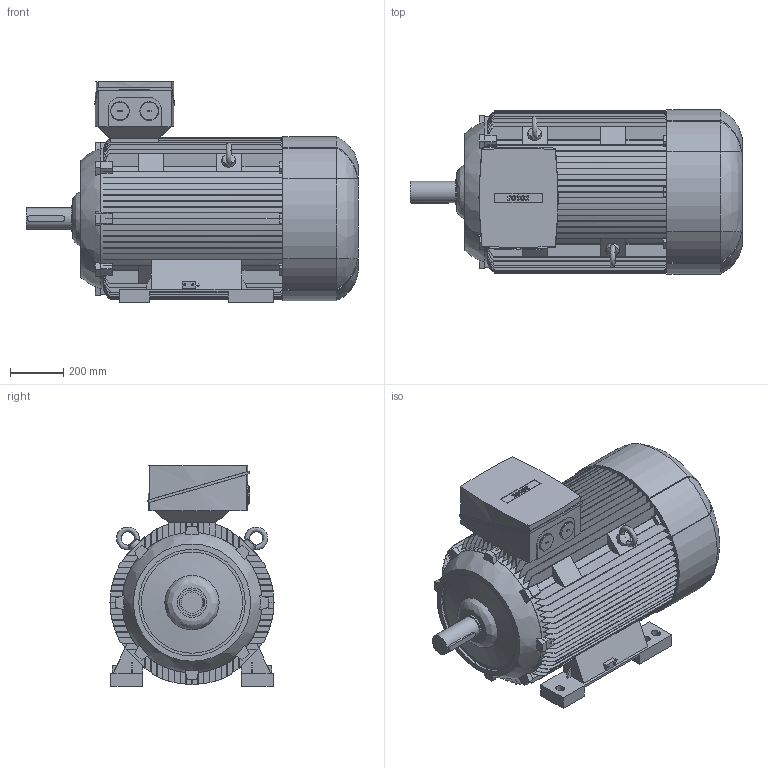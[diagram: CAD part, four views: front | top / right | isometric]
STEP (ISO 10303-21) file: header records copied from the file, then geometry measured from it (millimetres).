
FILE_DESCRIPTION (( 'STEP AP214' ), '1' );
FILE_NAME ('6RN315L08E24 IM1001.STEP', '2016-03-16T15:11:53', ( 'rotor' ), ( 'Hewlett-Packard Company' ), 'SwSTEP 2.0', 'SolidWorks 2012', '' );
FILE_SCHEMA (( 'AUTOMOTIVE_DESIGN' ));
Length unit declared in the file: millimetre
Products named in the file (1): 6RN315L08E24 IM1001
Bounding box: 1247 x 616 x 830 mm (x, y, z)
Volume: 279457696.1 mm3; surface area: 7285382.9 mm2
Topology: 7 solids, 7 shells, 1043 faces, 2981 edges, 1980 vertices
Faces by surface type: plane 687, bspline 195, cylinder 156, cone 5
Full cylindrical faces by diameter (mm): 8 x4, 50 x2, 70 x2, 80 x1, 95 x1, 400 x1
Entity records: 50896 total; most frequent: CARTESIAN_POINT 14399, ORIENTED_EDGE 5902, DIRECTION 4698, EDGE_CURVE 2951, VERTEX_POINT 1969, VECTOR 1812, LINE 1812, AXIS2_PLACEMENT_3D 1443
